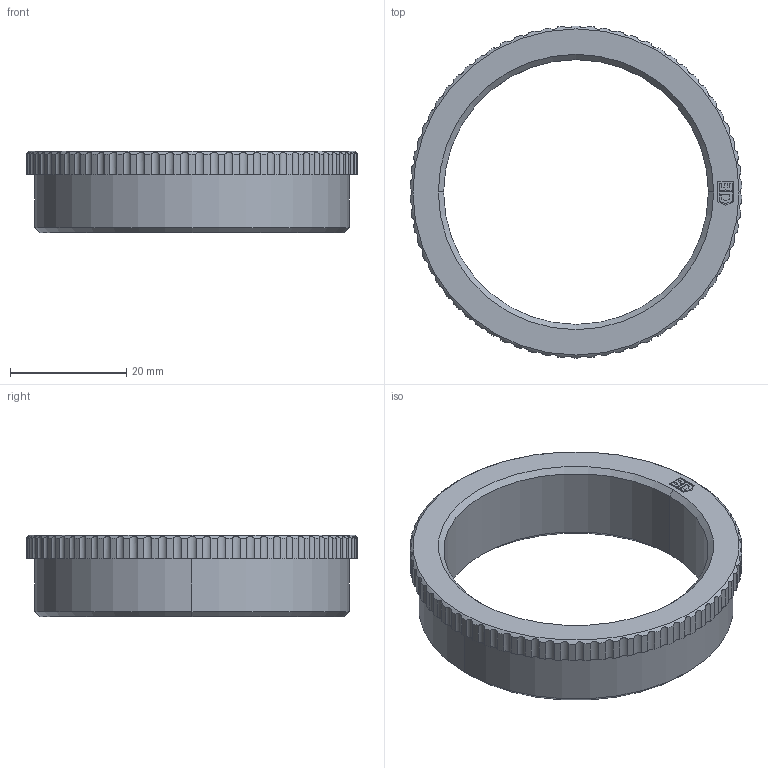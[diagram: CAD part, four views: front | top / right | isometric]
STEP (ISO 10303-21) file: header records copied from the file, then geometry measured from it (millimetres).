
FILE_DESCRIPTION (( 'STEP AP203' ), '1' );
FILE_NAME ('4236.STEP', '2005-11-22T09:21:38', ( ' ' ), ( '' ), 'SwSTEP 2.0', 'SolidWorks 2005278', '' );
FILE_SCHEMA (( 'CONFIG_CONTROL_DESIGN' ));
Length unit declared in the file: millimetre
Products named in the file (1): 4236
Bounding box: 56.98 x 57 x 14 mm (x, y, z)
Volume: 10083.8 mm3; surface area: 5989.7 mm2
Topology: 1 solids, 1 shells, 192 faces, 552 edges, 366 vertices
Faces by surface type: cylinder 144, plane 40, cone 8
Entity records: 6943 total; most frequent: CARTESIAN_POINT 1743, ORIENTED_EDGE 1104, DIRECTION 1092, EDGE_CURVE 552, AXIS2_PLACEMENT_3D 419, VERTEX_POINT 366, LINE 254, VECTOR 254
